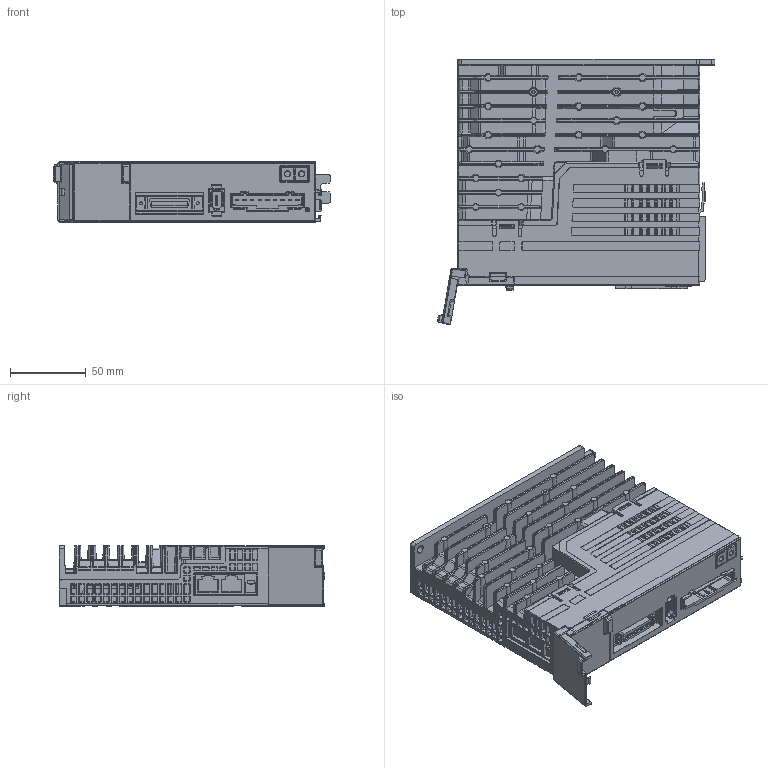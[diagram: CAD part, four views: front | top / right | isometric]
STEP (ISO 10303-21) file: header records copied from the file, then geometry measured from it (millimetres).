
FILE_DESCRIPTION((''),'2;1');
FILE_NAME('PRT0002','2021-10-15T17:22:58',('RD0058'),(''),'CREO PARAMETRIC BY PTC INC, 2016510','CREO PARAMETRIC BY PTC INC, 2016510','');
FILE_SCHEMA(('CONFIG_CONTROL_DESIGN','SHAPE_APPEARANCE_LAYERS_GROUPS'));
Products named in the file (1): PRT0002
Bounding box: 183.71 x 175.95 x 40 mm (x, y, z)
Volume: 711175.2 mm3; surface area: 179541.7 mm2
Topology: 1 solids, 3 shells, 5632 faces, 15244 edges, 9640 vertices
Faces by surface type: plane 2635, cylinder 1374, cone 881, torus 584, bspline 152, sphere 6
Entity records: 222578 total; most frequent: CARTESIAN_POINT 44824, ORIENTED_EDGE 30472, DIRECTION 27156, EDGE_CURVE 15236, VERTEX_POINT 9640, VECTOR 9286, LINE 9286, AXIS2_PLACEMENT_3D 8935
